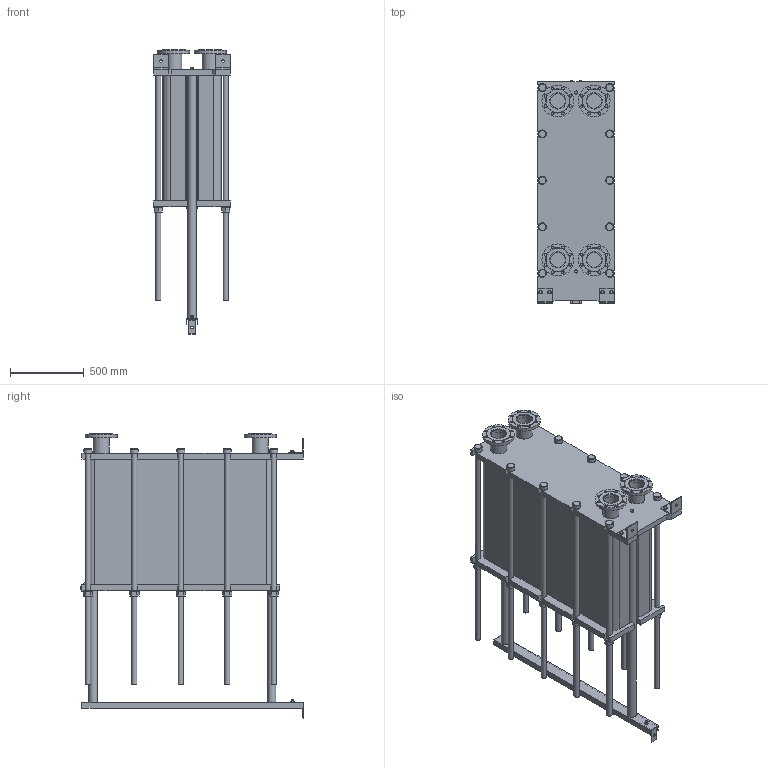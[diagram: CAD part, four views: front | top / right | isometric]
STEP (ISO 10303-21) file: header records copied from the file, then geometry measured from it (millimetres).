
FILE_DESCRIPTION(/* description */ (''),/* implementation_level */ '2;1');
FILE_NAME(/* name */ 'C:\Users\zhuro\Desktop\ENCO\TO\ЭН-04\ЭН-0,5-04-247-1.stp',/* time_stamp */ '2022-06-06T11:06:37+03:00',/* author */ ('zhuro'),/* organization */ (''),/* preprocessor_version */ 'ST-DEVELOPER v18.1',/* originating_system */ 'Autodesk Inventor 2022',/* authorisation */ '');
FILE_SCHEMA (('AUTOMOTIVE_DESIGN { 1 0 10303 214 3 1 1 }'));
Length unit declared in the file: millimetre
Products named in the file (1): ЭН-0,5-04-247-1
Bounding box: 520 x 1510 x 1923.5 mm (x, y, z)
Volume: 504986226.5 mm3; surface area: 11587805.9 mm2
Topology: 45 solids, 45 shells, 668 faces, 1611 edges, 1048 vertices
Faces by surface type: plane 457, cylinder 166, cone 39, torus 6
Full cylindrical faces by diameter (mm): 8 x4, 10 x2, 16 x8, 18 x35, 36 x25, 40 x2, 42 x1, 45 x4, 54 x10, 57 x2, 60 x10, 68 x2, 100 x4, 110 x8, 215 x4
Entity records: 23607 total; most frequent: CARTESIAN_POINT 7348, DIRECTION 3371, ORIENTED_EDGE 3142, EDGE_CURVE 1571, AXIS2_PLACEMENT_3D 1199, VERTEX_POINT 1044, LINE 973, VECTOR 973
